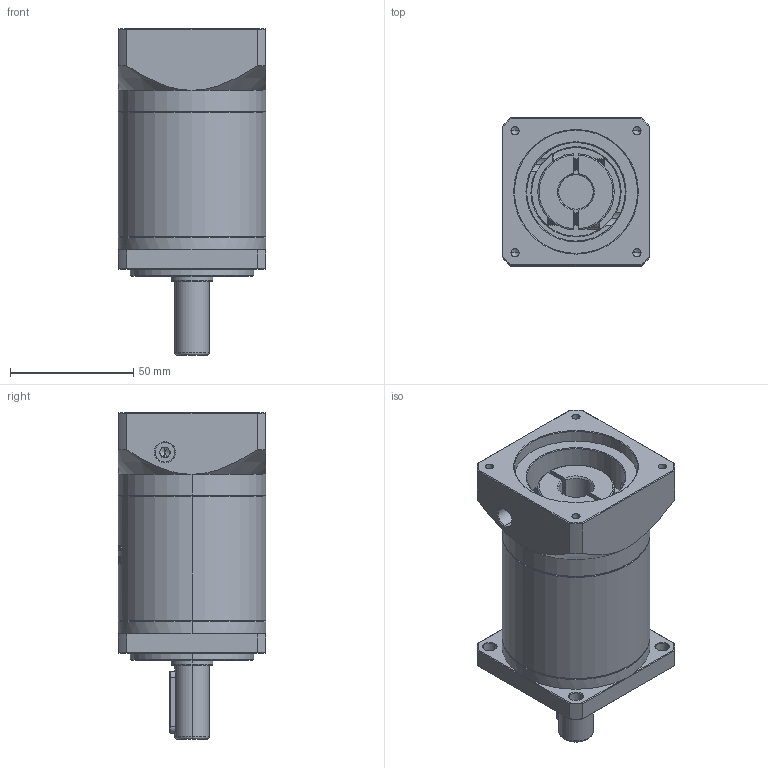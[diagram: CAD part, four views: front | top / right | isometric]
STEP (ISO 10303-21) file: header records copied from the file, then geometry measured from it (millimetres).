
FILE_DESCRIPTION (( 'STEP AP214' ), '1' );
FILE_NAME ('ZF60-D14-L2-14-50-70-M4.STEP', '2022-04-17T11:44:57', ( '' ), ( 'Microsoft' ), 'SwSTEP 2.0', 'SolidWorks 2016', '' );
FILE_SCHEMA (( 'AUTOMOTIVE_DESIGN' ));
Length unit declared in the file: millimetre
Products named in the file (1): ZF60-D14-L2-14-50-70-M4
Bounding box: 60 x 60 x 132.5 mm (x, y, z)
Volume: 270508.4 mm3; surface area: 46685.5 mm2
Topology: 6 solids, 6 shells, 1516 faces, 4074 edges, 2634 vertices
Faces by surface type: plane 736, bspline 287, cylinder 239, cone 234, torus 20
Entity records: 79562 total; most frequent: CARTESIAN_POINT 27913, ORIENTED_EDGE 8120, DIRECTION 6141, EDGE_CURVE 4060, VERTEX_POINT 2634, LINE 2119, VECTOR 2119, AXIS2_PLACEMENT_3D 2011
